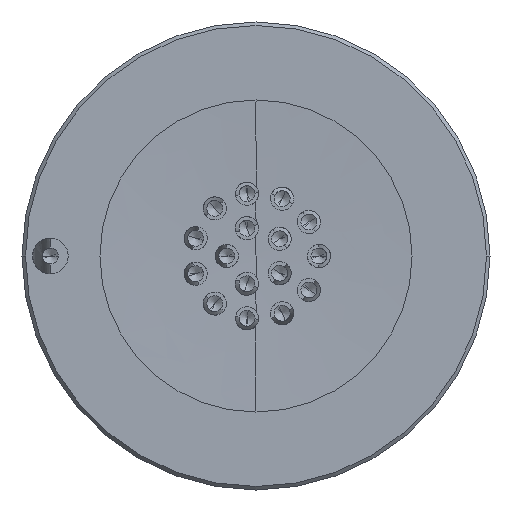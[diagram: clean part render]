
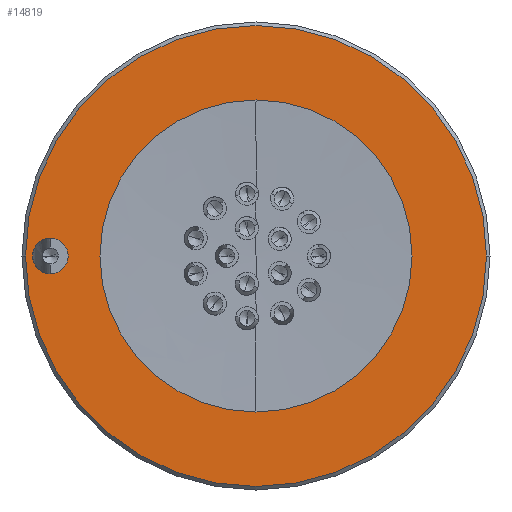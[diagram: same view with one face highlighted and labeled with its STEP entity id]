
A CAD part, left-side view. The second image highlights one B-rep face of the part: STEP entity #14819.
In plain terms, the highlighted planar face has unit normal (-1, 0, 0).
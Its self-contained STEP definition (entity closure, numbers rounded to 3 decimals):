
#48=CARTESIAN_POINT('',(-12.5,0.,0.));
#49=DIRECTION('',(1.,0.,0.));
#50=DIRECTION('',(0.,1.,0.));
#51=AXIS2_PLACEMENT_3D('',#48,#49,#50);
#53=CARTESIAN_POINT('',(-12.5,0.,0.));
#54=DIRECTION('',(1.,0.,0.));
#55=DIRECTION('',(0.,0.,1.));
#56=AXIS2_PLACEMENT_3D('',#53,#54,#55);
#58=CARTESIAN_POINT('',(-12.5,0.,0.));
#59=DIRECTION('',(1.,0.,0.));
#60=DIRECTION('',(0.,-1.,0.));
#61=AXIS2_PLACEMENT_3D('',#58,#59,#60);
#63=CARTESIAN_POINT('',(-12.5,0.,0.));
#64=DIRECTION('',(1.,0.,0.));
#65=DIRECTION('',(0.,0.,-1.));
#66=AXIS2_PLACEMENT_3D('',#63,#64,#65);
#68=CARTESIAN_POINT('',(-12.5,5.8,0.));
#69=DIRECTION('',(-1.,0.,0.));
#70=DIRECTION('',(0.,-1.,0.));
#71=AXIS2_PLACEMENT_3D('',#68,#69,#70);
#73=CARTESIAN_POINT('',(-12.5,5.8,0.));
#74=DIRECTION('',(-1.,0.,0.));
#75=DIRECTION('',(0.,1.,0.));
#76=AXIS2_PLACEMENT_3D('',#73,#74,#75);
#78=CARTESIAN_POINT('',(-12.5,0.,0.));
#79=DIRECTION('',(-1.,0.,0.));
#80=DIRECTION('',(0.,-1.,0.));
#81=AXIS2_PLACEMENT_3D('',#78,#79,#80);
#83=CARTESIAN_POINT('',(-12.5,0.,0.));
#84=DIRECTION('',(-1.,0.,0.));
#85=DIRECTION('',(0.,1.,0.));
#86=AXIS2_PLACEMENT_3D('',#83,#84,#85);
#12840=CARTESIAN_POINT('',(-12.5,6.215,0.));
#12841=CARTESIAN_POINT('',(-12.5,5.385,0.));
#12842=VERTEX_POINT('',#12840);
#12843=VERTEX_POINT('',#12841);
#12848=CARTESIAN_POINT('',(-12.5,0.,6.5));
#12849=CARTESIAN_POINT('',(-12.5,-6.5,0.));
#12850=VERTEX_POINT('',#12848);
#12851=VERTEX_POINT('',#12849);
#12852=CARTESIAN_POINT('',(-12.5,6.5,0.));
#12853=VERTEX_POINT('',#12852);
#12854=CARTESIAN_POINT('',(-12.5,0.,-6.5));
#12855=VERTEX_POINT('',#12854);
#12856=CARTESIAN_POINT('',(-12.5,-4.4,0.));
#12857=CARTESIAN_POINT('',(-12.5,4.4,0.));
#12858=VERTEX_POINT('',#12856);
#12859=VERTEX_POINT('',#12857);
#14793=CARTESIAN_POINT('',(-12.5,0.,0.));
#14794=DIRECTION('',(1.,0.,0.));
#14795=DIRECTION('',(0.,-1.,0.));
#14796=AXIS2_PLACEMENT_3D('',#14793,#14794,#14795);
#14797=PLANE('',#14796);
#14799=ORIENTED_EDGE('',*,*,#14798,.T.);
#14801=ORIENTED_EDGE('',*,*,#14800,.T.);
#14803=ORIENTED_EDGE('',*,*,#14802,.T.);
#14805=ORIENTED_EDGE('',*,*,#14804,.T.);
#14806=EDGE_LOOP('',(#14799,#14801,#14803,#14805));
#14807=FACE_OUTER_BOUND('',#14806,.F.);
#14809=ORIENTED_EDGE('',*,*,#14808,.T.);
#14810=ORIENTED_EDGE('',*,*,#14775,.T.);
#14811=EDGE_LOOP('',(#14809,#14810));
#14812=FACE_BOUND('',#14811,.F.);
#14814=ORIENTED_EDGE('',*,*,#14813,.T.);
#14816=ORIENTED_EDGE('',*,*,#14815,.T.);
#14817=EDGE_LOOP('',(#14814,#14816));
#14818=FACE_BOUND('',#14817,.F.);
#52=CIRCLE('',#51,6.5);
#57=CIRCLE('',#56,6.5);
#62=CIRCLE('',#61,6.5);
#67=CIRCLE('',#66,6.5);
#72=CIRCLE('',#71,0.415);
#77=CIRCLE('',#76,0.415);
#82=CIRCLE('',#81,4.4);
#87=CIRCLE('',#86,4.4);
#14775=EDGE_CURVE('',#12842,#12843,#77,.T.);
#14798=EDGE_CURVE('',#12853,#12850,#52,.T.);
#14800=EDGE_CURVE('',#12850,#12851,#57,.T.);
#14802=EDGE_CURVE('',#12851,#12855,#62,.T.);
#14804=EDGE_CURVE('',#12855,#12853,#67,.T.);
#14808=EDGE_CURVE('',#12843,#12842,#72,.T.);
#14813=EDGE_CURVE('',#12858,#12859,#82,.T.);
#14815=EDGE_CURVE('',#12859,#12858,#87,.T.);
#14819=ADVANCED_FACE('',(#14807,#14812,#14818),#14797,.F.);
